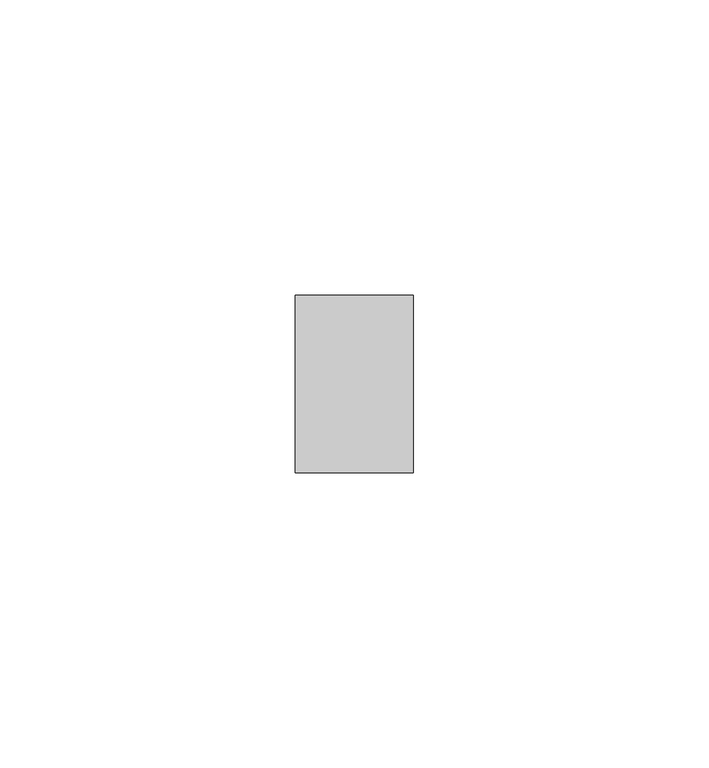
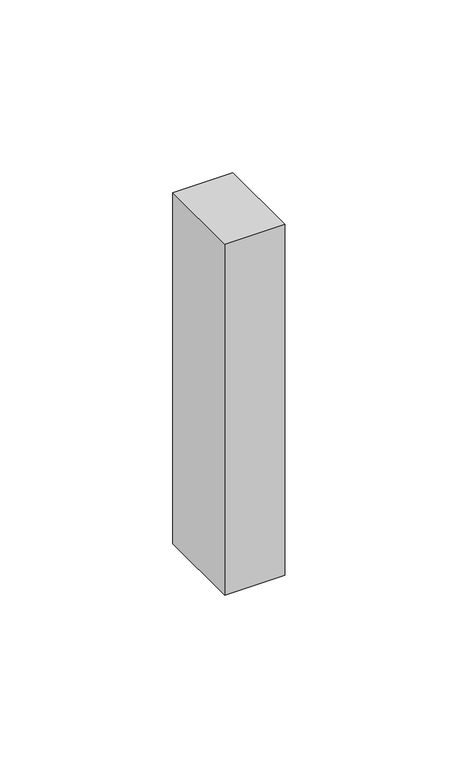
"""IFC4 building model written with IfcOpenShell, lengths in millimetres: member geometry, Прямоугольный импост : Квадрат 10 мм - Зазор между навесными плитами."""

from ifc_helpers import new_model, si_unit, frame, origin, place, context, project, spatial, polyline, outline, extrude, source, transform, mapped, element, save


def member_17a3ecd4(model_context):
    return source(origin(), model_context, "Body", "SweptSolid", [
        extrude(outline(polyline([(10.0, 15.0), (10.0, -15.0), (-10.0, -15.0), (-10.0, 15.0), (10.0, 15.0)])), frame((0.0, 0.0, -123.8838418), z_axis=(0.0, 0.0, 1.0), x_axis=(1.0, 0.0, 0.0)), (0.0, 0.0, 1.0), 123.8838418),
    ])


if __name__ == "__main__":
    model = new_model("IFC4")
    model_context = context("Model", 3, world=origin())
    ifc_project = project(units=[si_unit("LENGTHUNIT", "METRE", prefix="MILLI")], contexts=[model_context])
    site = spatial("IfcSite", under=ifc_project)
    building = spatial("IfcBuilding", under=site)
    placement = place(None, origin())
    member_shape = member_17a3ecd4(model_context)
    element("IfcMember", 1, ObjectType="Прямоугольный импост : Квадрат 10 мм - Зазор между навесными плитами", at=placement, inside=building, context=model_context, shape_type="MappedRepresentation", body=[
        mapped(member_shape, transform((0.0, 0.0, 0.0), x_axis=(1.0, 0.0, 0.0), y_axis=(0.0, 1.0, 0.0), z_axis=(0.0, 0.0, 1.0))),
    ])
    save(model, "model.ifc")
